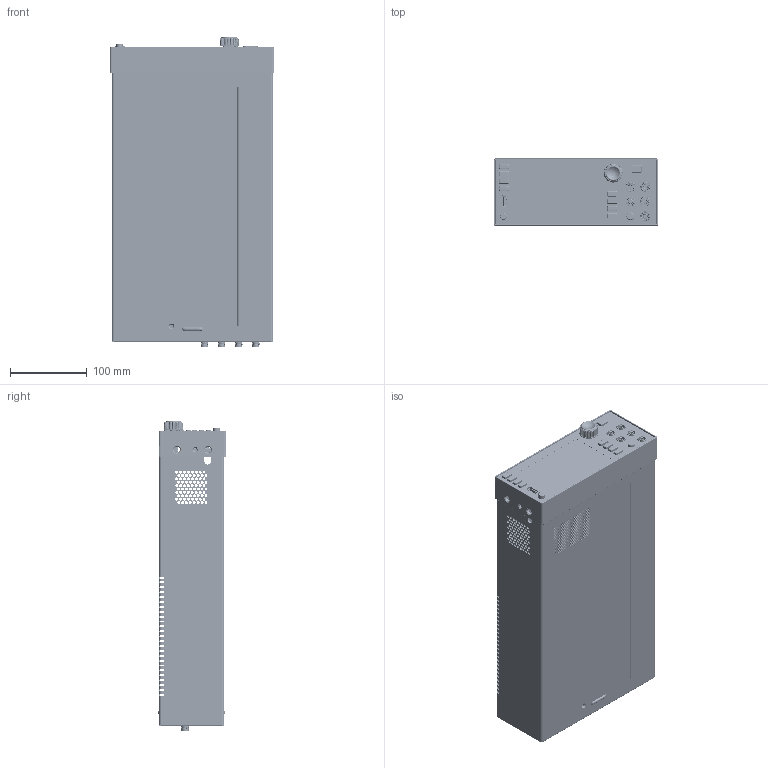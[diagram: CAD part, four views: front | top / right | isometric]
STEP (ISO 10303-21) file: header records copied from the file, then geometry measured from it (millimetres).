
FILE_DESCRIPTION((''),'2;1');
FILE_NAME('2450-SALES_ASM','2014-12-18T',('mboehnle'),('Keithley Instruments, Inc'),'PRO/ENGINEER BY PARAMETRIC TECHNOLOGY CORPORATION, 2012480','PRO/ENGINEER BY PARAMETRIC TECHNOLOGY CORPORATION, 2012480','');
FILE_SCHEMA(('CONFIG_CONTROL_DESIGN'));
Length unit declared in the file: inch
Products named in the file (55): CS-1234; 7002-323-2; 2450-130_ASM; 2450-303; PEM-CLS-632-2; PEM-AC-632-2; PEM-BS-632-2; 2450-303_ASM; LF-11-PURCHPART; GR-71-750; 2450-305; 2450-307; 2450-308; 2450-307_ASM; 2450-313; 2450-313-1; 2450-313-2; 2450-314; 2450-313_ASM; DD-77; DD-77-GLASS; DD-77_ASM; 2450-FP-INSERT_ASM; 2450-318; PEM-SOS-632-8; 2450-318_ASM; SW-545; SW-545-WASHER; SW-545-NUT; SW-545_ASM; 2450-306; 2450-322; 2450-306_ASM; 2450-326; 2450-326-OVERMOLD; 2450-326_ASM; 2450-FRONT-PANEL-ASSEMBLY_ASM; CS-507; CS-1150-1; CS-761-9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
Assembly tree (65 placements, depth 5):
  2450-SALES_ASM
    2450-130_ASM
      CS-1234
      7002-323-2
    2450-303_ASM
      2450-303
      PEM-CLS-632-2  x3
      PEM-AC-632-2
      PEM-BS-632-2  x2
    LF-11-PURCHPART
    GR-71-750
    2450-FRONT-PANEL-ASSEMBLY_ASM
      2450-305
      2450-FP-INSERT_ASM
        2450-307_ASM
          2450-307
          2450-308
        2450-313_ASM
          2450-313
          2450-313-1
          2450-313-2
          2450-314
        DD-77_ASM
          DD-77
          DD-77-GLASS
      2450-318_ASM
        2450-318
        PEM-SOS-632-8  x2
      SW-545_ASM
        SW-545
        SW-545-WASHER
        SW-545-NUT
      2450-306_ASM
        2450-306
        2450-322  x5
      2450-326_ASM
        2450-326
        2450-326-OVERMOLD
    2450-140_ASM
      CS-507
      CS-1150-1
      CS-761-9
      CS-1032
      CS-1644-2
      CS-1646-4
      CS-1640-14
      CS-1651-40
      CS-715-3
    2450-100_ASM
      CS-995-NUTLESS  x4
      CS-1614-3
    2450-315_ASM
      2450-315
      2450-316
    2450-312
Bounding box: 213.85 x 89.35 x 403.81 mm (x, y, z)
Volume: 636282.1 mm3; surface area: 734811.7 mm2
Topology: 52 solids, 57 shells, 11372 faces, 30459 edges, 19515 vertices
Faces by surface type: plane 6357, cylinder 3641, cone 606, bspline 327, torus 260, extrusion 144, sphere 37
Entity records: 352743 total; most frequent: CARTESIAN_POINT 79835, ORIENTED_EDGE 57130, DIRECTION 55326, EDGE_CURVE 28565, VECTOR 19818, LINE 19674, VERTEX_POINT 18342, AXIS2_PLACEMENT_3D 17754
